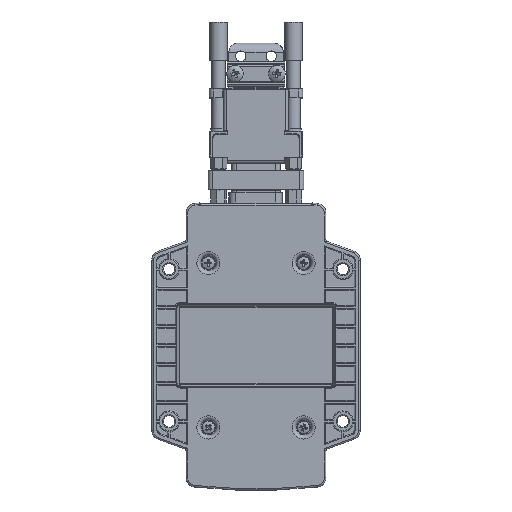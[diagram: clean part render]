
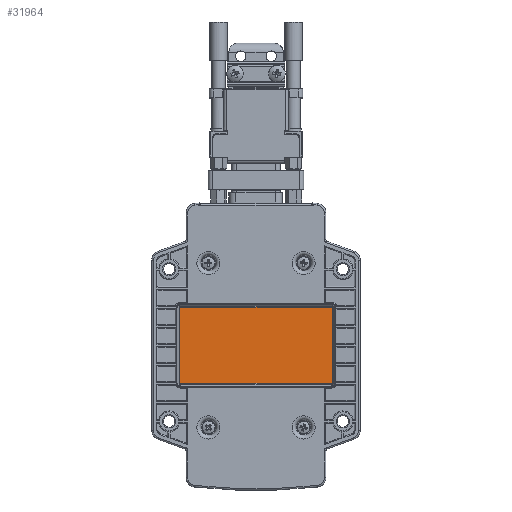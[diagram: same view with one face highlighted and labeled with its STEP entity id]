
A CAD part, front view. The second image highlights one B-rep face of the part: STEP entity #31964.
In plain terms, the highlighted planar face has unit normal (0, -1, 0).
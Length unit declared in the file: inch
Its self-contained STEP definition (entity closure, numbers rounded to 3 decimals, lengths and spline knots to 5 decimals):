
#406 = ORIENTED_EDGE ( 'NONE', *, *, #46834, .F. ) ;
#4560 = CARTESIAN_POINT ( 'NONE',  ( -1., -0.1, -0.5 ) ) ;
#4659 = VECTOR ( 'NONE', #19726, 39.37008 ) ;
#6236 = PLANE ( 'NONE',  #30468 ) ;
#8205 = VECTOR ( 'NONE', #8426, 39.37008 ) ;
#8345 = CARTESIAN_POINT ( 'NONE',  ( -1., -0.1, 0.5 ) ) ;
#8426 = DIRECTION ( 'NONE',  ( -1., 0., 0. ) ) ;
#9088 = LINE ( 'NONE', #35239, #38369 ) ;
#10293 = VECTOR ( 'NONE', #48492, 39.37008 ) ;
#12982 = ORIENTED_EDGE ( 'NONE', *, *, #23592, .F. ) ;
#13985 = CARTESIAN_POINT ( 'NONE',  ( -1., -0.1, 0.5 ) ) ;
#15477 = EDGE_CURVE ( 'NONE', #31706, #43937, #9088, .T. ) ;
#17806 = DIRECTION ( 'NONE',  ( 0., 0., -1. ) ) ;
#18252 = CARTESIAN_POINT ( 'NONE',  ( 1., -0.1, 0.5 ) ) ;
#18891 = FACE_OUTER_BOUND ( 'NONE', #30767, .T. ) ;
#19726 = DIRECTION ( 'NONE',  ( 1., 0., 0. ) ) ;
#23592 = EDGE_CURVE ( 'NONE', #35847, #31706, #38672, .T. ) ;
#27091 = EDGE_CURVE ( 'NONE', #43937, #42363, #35192, .T. ) ;
#30468 = AXIS2_PLACEMENT_3D ( 'NONE', #13985, #40611, #17806 ) ;
#30630 = LINE ( 'NONE', #44723, #10293 ) ;
#30767 = EDGE_LOOP ( 'NONE', ( #35989, #12982, #406, #40315 ) ) ;
#31569 = DIRECTION ( 'NONE',  ( 0., 0., 1. ) ) ;
#31706 = VERTEX_POINT ( 'NONE', #32477 ) ;
#31964 = ADVANCED_FACE ( 'NONE', ( #18891 ), #6236, .T. ) ;
#32477 = CARTESIAN_POINT ( 'NONE',  ( -1., -0.1, -0.5 ) ) ;
#35192 = LINE ( 'NONE', #8345, #4659 ) ;
#35239 = CARTESIAN_POINT ( 'NONE',  ( -1., -0.1, 0.5 ) ) ;
#35847 = VERTEX_POINT ( 'NONE', #44700 ) ;
#35989 = ORIENTED_EDGE ( 'NONE', *, *, #15477, .F. ) ;
#38369 = VECTOR ( 'NONE', #31569, 39.37008 ) ;
#38672 = LINE ( 'NONE', #4560, #8205 ) ;
#40315 = ORIENTED_EDGE ( 'NONE', *, *, #27091, .F. ) ;
#40611 = DIRECTION ( 'NONE',  ( 0., -1., 0. ) ) ;
#42363 = VERTEX_POINT ( 'NONE', #18252 ) ;
#43937 = VERTEX_POINT ( 'NONE', #46516 ) ;
#44700 = CARTESIAN_POINT ( 'NONE',  ( 1., -0.1, -0.5 ) ) ;
#44723 = CARTESIAN_POINT ( 'NONE',  ( 1., -0.1, 0.5 ) ) ;
#46516 = CARTESIAN_POINT ( 'NONE',  ( -1., -0.1, 0.5 ) ) ;
#46834 = EDGE_CURVE ( 'NONE', #42363, #35847, #30630, .T. ) ;
#48492 = DIRECTION ( 'NONE',  ( 0., 0., -1. ) ) ;
